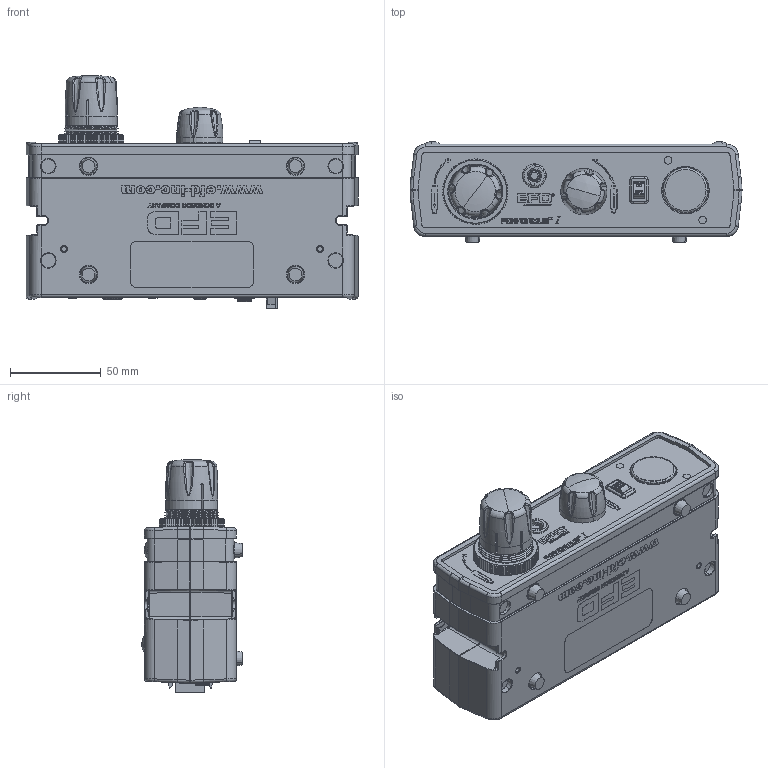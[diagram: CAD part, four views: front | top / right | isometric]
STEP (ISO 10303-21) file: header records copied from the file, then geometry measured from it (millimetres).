
FILE_DESCRIPTION (( 'STEP AP214' ), '1' );
FILE_NAME ('NORDSONEFD-7012330 PERFORMUS I.STEP', '2015-09-23T14:00:32', ( 'Windows User' ), ( '' ), 'SwSTEP 2.0', 'SolidWorks 2015', '' );
FILE_SCHEMA (( 'AUTOMOTIVE_DESIGN' ));
Length unit declared in the file: inch
Products named in the file (1): NORDSONEFD-7012330 PERFORMUS I
Bounding box: 183.4 x 55.7 x 128.66 mm (x, y, z)
Volume: 741490.6 mm3; surface area: 104182.5 mm2
Topology: 3 solids, 3 shells, 6998 faces, 18440 edges, 11985 vertices
Faces by surface type: plane 3663, bspline 1959, cylinder 741, cone 412, torus 185, sphere 38
Entity records: 324902 total; most frequent: CARTESIAN_POINT 145584, ORIENTED_EDGE 36832, DIRECTION 26491, EDGE_CURVE 18416, VERTEX_POINT 11985, LINE 11201, VECTOR 11201, AXIS2_PLACEMENT_3D 7645
